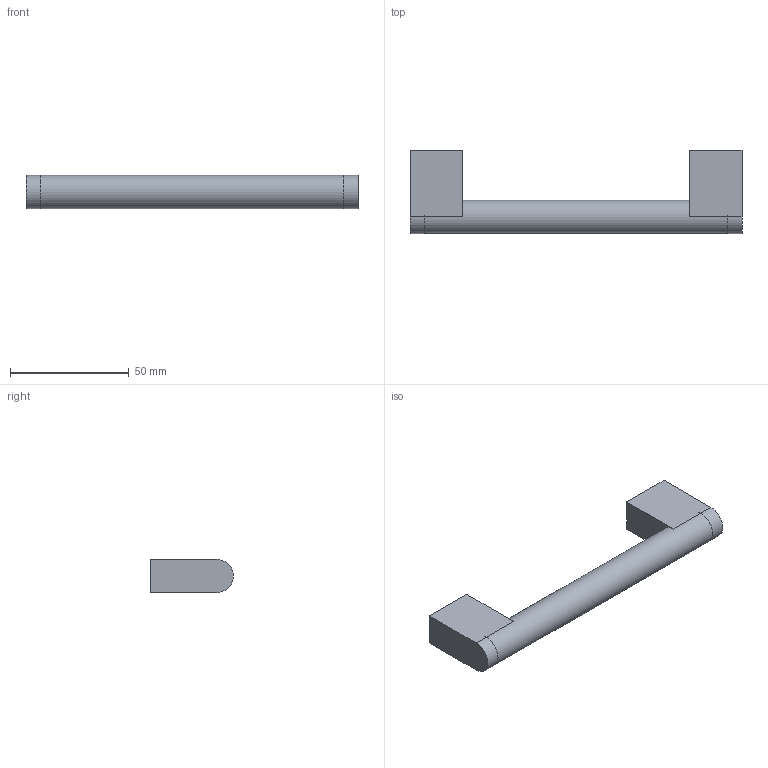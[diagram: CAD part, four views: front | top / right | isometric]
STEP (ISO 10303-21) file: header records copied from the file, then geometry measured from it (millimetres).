
FILE_DESCRIPTION( ( 'STEP AP214' ), ' ' );
FILE_NAME( 'C:/Users/bhog/Desktop/Handle/9069890/9069890.stp', '2018-11-20T10:19:59', ( '' ), ( '' ), ' ', 'PARTsolutions', ' ' );
FILE_SCHEMA( ( 'AUTOMOTIVE_DESIGN { 1 0 10303 214 1 1 1 1 }' ) );
Length unit declared in the file: millimetre
Products named in the file (1): _9069890
Bounding box: 140 x 35 x 14 mm (x, y, z)
Volume: 35294.1 mm3; surface area: 11544.7 mm2
Topology: 1 solids, 1 shells, 21 faces, 41 edges, 26 vertices
Faces by surface type: plane 14, cylinder 7
Full cylindrical faces by diameter (mm): 4 x2, 13.98 x1
Entity records: 706 total; most frequent: DIRECTION 96, CARTESIAN_POINT 86, ORIENTED_EDGE 76, EDGE_CURVE 38, AXIS2_PLACEMENT_3D 36, EDGE_LOOP 28, VERTEX_POINT 26, FACE_OUTER_BOUND 24
